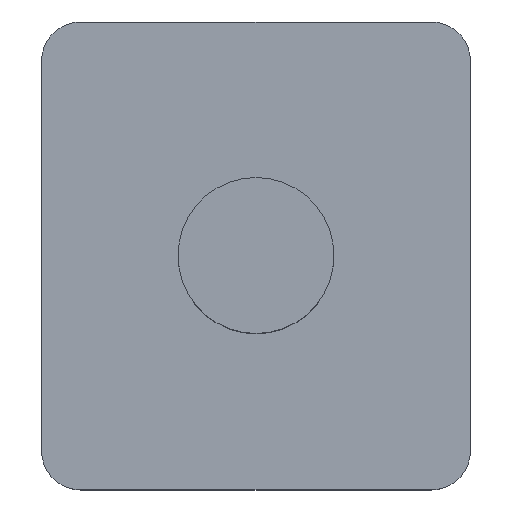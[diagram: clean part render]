
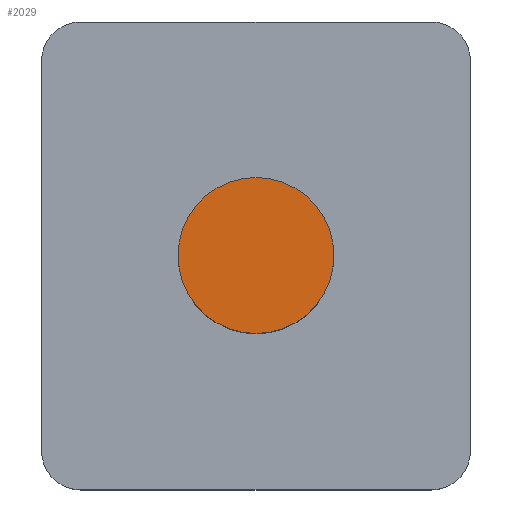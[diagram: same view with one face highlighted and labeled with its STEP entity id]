
A CAD part, top view. The second image highlights one B-rep face of the part: STEP entity #2029.
In plain terms, the highlighted planar face has unit normal (0, 0, 1).
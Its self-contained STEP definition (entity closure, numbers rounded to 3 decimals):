
#357 = CYLINDRICAL_SURFACE('',#358,12.);
#358 = AXIS2_PLACEMENT_3D('',#359,#360,#361);
#359 = CARTESIAN_POINT('',(0.,0.,69.));
#360 = DIRECTION('',(-0.,-0.,-1.));
#361 = DIRECTION('',(1.,0.,0.));
#1161 = VERTEX_POINT('',#1162);
#1162 = CARTESIAN_POINT('',(12.,0.,107.));
#1183 = EDGE_CURVE('',#1161,#1161,#1184,.T.);
#1184 = SURFACE_CURVE('',#1185,(#1190,#1197),.PCURVE_S1.);
#1185 = CIRCLE('',#1186,12.);
#1186 = AXIS2_PLACEMENT_3D('',#1187,#1188,#1189);
#1187 = CARTESIAN_POINT('',(0.,0.,107.));
#1188 = DIRECTION('',(0.,0.,1.));
#1189 = DIRECTION('',(1.,0.,0.));
#1190 = PCURVE('',#357,#1191);
#1191 = DEFINITIONAL_REPRESENTATION('',(#1192),#1196);
#1192 = LINE('',#1193,#1194);
#1193 = CARTESIAN_POINT('',(-0.,-38.));
#1194 = VECTOR('',#1195,1.);
#1195 = DIRECTION('',(-1.,0.));
#1196 = ( GEOMETRIC_REPRESENTATION_CONTEXT(2) 
PARAMETRIC_REPRESENTATION_CONTEXT() REPRESENTATION_CONTEXT('2D SPACE',''
  ) );
#1197 = PCURVE('',#1198,#1203);
#1198 = PLANE('',#1199);
#1199 = AXIS2_PLACEMENT_3D('',#1200,#1201,#1202);
#1200 = CARTESIAN_POINT('',(0.,0.,107.)
  );
#1201 = DIRECTION('',(0.,0.,1.));
#1202 = DIRECTION('',(1.,0.,-0.));
#1203 = DEFINITIONAL_REPRESENTATION('',(#1204),#1208);
#1204 = CIRCLE('',#1205,12.);
#1205 = AXIS2_PLACEMENT_2D('',#1206,#1207);
#1206 = CARTESIAN_POINT('',(0.,0.));
#1207 = DIRECTION('',(1.,0.));
#1208 = ( GEOMETRIC_REPRESENTATION_CONTEXT(2) 
PARAMETRIC_REPRESENTATION_CONTEXT() REPRESENTATION_CONTEXT('2D SPACE',''
  ) );
#2029 = ADVANCED_FACE('',(#2030),#1198,.T.);
#2030 = FACE_BOUND('',#2031,.T.);
#2031 = EDGE_LOOP('',(#2032));
#2032 = ORIENTED_EDGE('',*,*,#1183,.T.);
